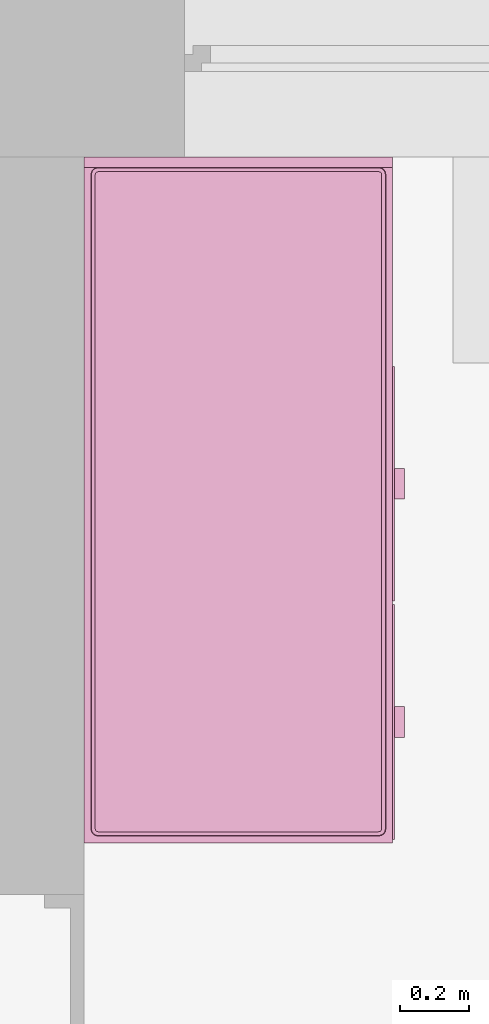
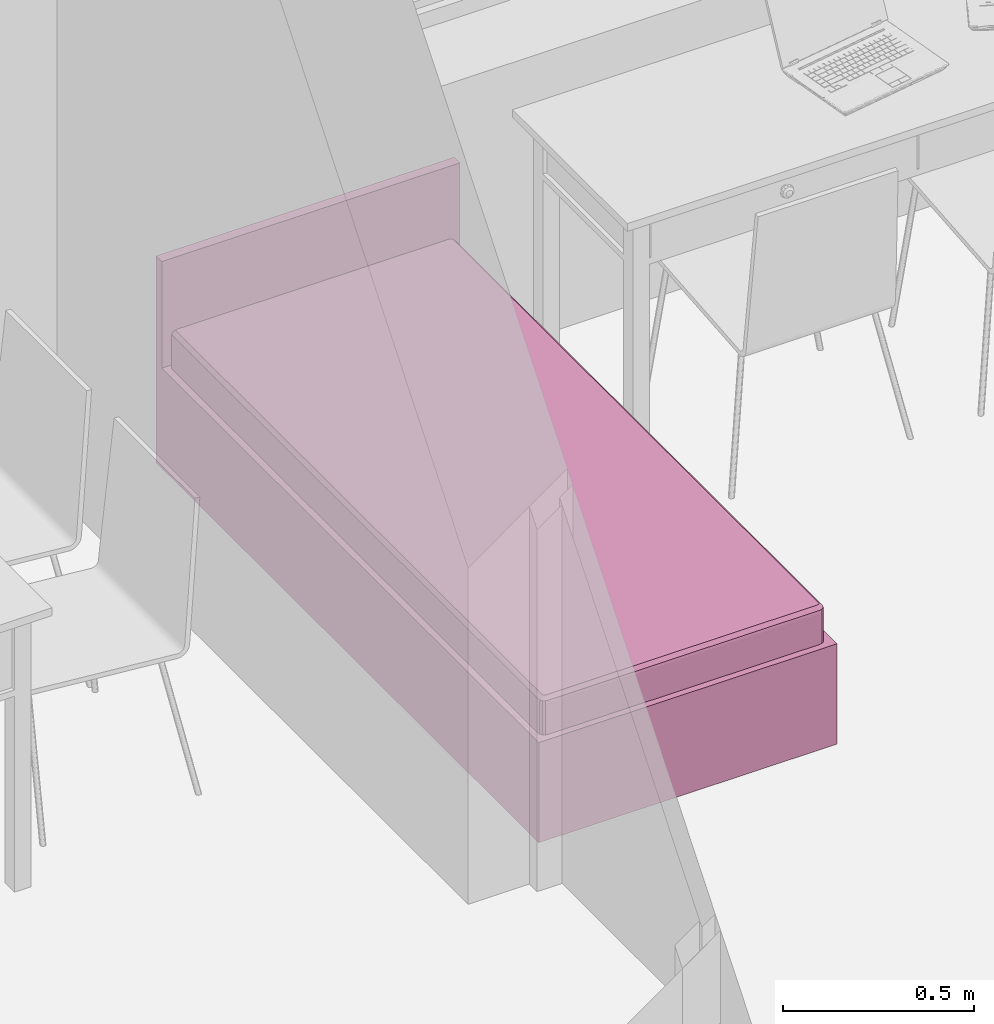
# One storey, part 67 of 165: 1 furnishing.
"""IFC2X3 building model written with IfcOpenShell, lengths in millimetres."""

from ifc_helpers import new_model, entity, si_unit, converted_unit, money_unit, direction, frame, origin_with_axes, place, context, subcontext, project, spatial, faceted_brep, source, transform, mapped, material, material_list, type_object, element, save


model = new_model("IFC2X3")

# Units and contexts
model_context = context("Model", 3, precision=1e-05, world=origin_with_axes(), true_north=direction((0.0, 1.0)))
body_context = subcontext(model_context, "Body", "Model", "MODEL_VIEW")
ifc_project = project(units=[si_unit("LENGTHUNIT", "METRE", prefix="MILLI"), si_unit("AREAUNIT", "SQUARE_METRE"), si_unit("VOLUMEUNIT", "CUBIC_METRE"), converted_unit("PLANEANGLEUNIT", "DEGREE", entity("IfcPlaneAngleMeasure", 0.0174532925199), si_unit("PLANEANGLEUNIT", "RADIAN"), dimensions=[0, 0, 0, 0, 0, 0, 0]), si_unit("SOLIDANGLEUNIT", "STERADIAN"), money_unit("USD"), converted_unit("TIMEUNIT", "Year", entity("IfcTimeMeasure", 31556926.0), si_unit("TIMEUNIT", "SECOND"), dimensions=[0, 0, 0, 0, 0, 0, 0]), si_unit("MASSUNIT", "GRAM"), si_unit("THERMODYNAMICTEMPERATUREUNIT", "DEGREE_CELSIUS"), si_unit("LUMINOUSINTENSITYUNIT", "LUMEN")], contexts=[model_context])

# Site, building, storey
site_placement = place(None, origin_with_axes())
site = spatial("IfcSite", under=ifc_project, at=site_placement, Name="Site", CompositionType="ELEMENT")
building_placement = place(site_placement, origin_with_axes())
building = spatial("IfcBuilding", under=site, at=building_placement, Name="Building", CompositionType="ELEMENT")
storey_placement = place(building_placement, frame((0.0, 0.0, 6300.0), z_axis=(0.0, 0.0, 1.0), x_axis=(1.0, 0.0, 0.0)))
storey = spatial("IfcBuildingStorey", under=building, at=storey_placement, Name="4KORRUS", CompositionType="ELEMENT", Elevation=6300.0)

# Furnishing
ifc_material = material(Name="Background")
ifc_material_list = material_list([ifc_material])
furnishing_element_type = type_object("IfcFurnishingElementType", Name="Bed 19")
shared_shape = source(origin_with_axes(), body_context, "Body", "Brep", [
    faceted_brep([(900.0, 1970.0, 0.0), (0.0, 1970.0, 0.0), (0.0, 2000.0, 0.0), (900.0, 2000.0, 0.0), (900.0, 1970.0, 660.0), (0.0, 1970.0, 660.0), (0.0, 2000.0, 660.0), (900.0, 2000.0, 660.0)], [[[0, 1, 2, 3]], [[1, 0, 4, 5]], [[2, 1, 5, 6]], [[3, 2, 6, 7]], [[0, 3, 7, 4]], [[5, 4, 7, 6]]]),
    faceted_brep([(900.0, 0.0, 0.0), (0.0, 0.0, 0.0), (0.0, 1970.0, 0.0), (900.0, 1970.0, 0.0), (900.0, 0.0, 320.0), (0.0, 0.0, 320.0), (0.0, 1970.0, 320.0), (900.0, 1970.0, 320.0)], [[[0, 1, 2, 3]], [[1, 0, 4, 5]], [[2, 1, 5, 6]], [[3, 2, 6, 7]], [[0, 3, 7, 4]], [[5, 4, 7, 6]]]),
    faceted_brep([(905.0, 10.0, 30.0), (900.0, 10.0, 30.0), (900.0, 695.0, 30.0), (905.0, 695.0, 30.0), (905.0, 10.0, 290.0), (900.0, 10.0, 290.0), (900.0, 695.0, 290.0), (905.0, 695.0, 290.0)], [[[0, 1, 2, 3]], [[1, 0, 4, 5]], [[2, 1, 5, 6]], [[3, 2, 6, 7]], [[0, 3, 7, 4]], [[5, 4, 7, 6]]]),
    faceted_brep([(935.0, 307.5, 150.0), (905.0, 307.5, 150.0), (905.0, 397.5, 150.0), (935.0, 397.5, 150.0), (935.0, 307.5, 170.0), (905.0, 307.5, 170.0), (905.0, 397.5, 170.0), (935.0, 397.5, 170.0)], [[[0, 1, 2, 3]], [[1, 0, 4, 5]], [[2, 1, 5, 6]], [[3, 2, 6, 7]], [[0, 3, 7, 4]], [[5, 4, 7, 6]]]),
    faceted_brep([(905.0, 705.0, 30.0), (900.0, 705.0, 30.0), (900.0, 1390.0, 30.0), (905.0, 1390.0, 30.0), (905.0, 705.0, 290.0), (900.0, 705.0, 290.0), (900.0, 1390.0, 290.0), (905.0, 1390.0, 290.0)], [[[0, 1, 2, 3]], [[1, 0, 4, 5]], [[2, 1, 5, 6]], [[3, 2, 6, 7]], [[0, 3, 7, 4]], [[5, 4, 7, 6]]]),
    faceted_brep([(935.0, 1002.5, 150.0), (905.0, 1002.5, 150.0), (905.0, 1092.5, 150.0), (935.0, 1092.5, 150.0), (935.0, 1002.5, 170.0), (905.0, 1002.5, 170.0), (905.0, 1092.5, 170.0), (935.0, 1092.5, 170.0)], [[[0, 1, 2, 3]], [[1, 0, 4, 5]], [[2, 1, 5, 6]], [[3, 2, 6, 7]], [[0, 3, 7, 4]], [[5, 4, 7, 6]]]),
    faceted_brep([(20.0, 40.0, 350.0), (20.0, 1950.0, 350.0), (21.522, 1957.654, 350.0), (25.858, 1964.142, 350.0), (32.346, 1968.478, 350.0), (40.0, 1970.0, 350.0), (860.0, 1970.0, 350.0), (867.654, 1968.478, 350.0), (874.142, 1964.142, 350.0), (878.478, 1957.654, 350.0), (880.0, 1950.0, 350.0), (880.0, 40.0, 350.0), (878.478, 32.346, 350.0), (874.142, 25.858, 350.0), (867.654, 21.522, 350.0), (860.0, 20.0, 350.0), (40.0, 20.0, 350.0), (32.346, 21.522, 350.0), (25.858, 25.858, 350.0), (21.522, 32.346, 350.0), (20.0, 40.0, 420.0), (20.0, 1950.0, 420.0), (21.522, 1957.654, 420.0), (25.858, 1964.142, 420.0), (32.346, 1968.478, 420.0), (40.0, 1970.0, 420.0), (860.0, 1970.0, 420.0), (867.654, 1968.478, 420.0), (874.142, 1964.142, 420.0), (878.478, 1957.654, 420.0), (880.0, 1950.0, 420.0), (880.0, 40.0, 420.0), (878.478, 32.346, 420.0), (874.142, 25.858, 420.0), (867.654, 21.522, 420.0), (860.0, 20.0, 420.0), (40.0, 20.0, 420.0), (32.346, 21.522, 420.0), (25.858, 25.858, 420.0), (21.522, 32.346, 420.0), (21.522, 40.15, 427.654), (21.522, 1949.85, 427.654), (22.956, 1957.06, 427.654), (26.955, 1963.045, 427.654), (32.94, 1967.044, 427.654), (40.15, 1968.478, 427.654), (859.85, 1968.478, 427.654), (867.06, 1967.044, 427.654), (873.045, 1963.045, 427.654), (877.044, 1957.06, 427.654), (878.478, 1949.85, 427.654), (878.478, 40.15, 427.654), (877.044, 32.94, 427.654), (873.045, 26.955, 427.654), (867.06, 22.956, 427.654), (859.85, 21.522, 427.654), (40.15, 21.522, 427.654), (32.94, 22.956, 427.654), (26.955, 26.955, 427.654), (22.956, 32.94, 427.654), (32.346, 41.216, 438.478), (32.346, 1948.784, 438.478), (33.152, 1952.836, 438.478), (34.759, 1955.241, 438.478), (37.164, 1956.848, 438.478), (41.216, 1957.654, 438.478), (858.784, 1957.654, 438.478), (862.836, 1956.848, 438.478), (865.241, 1955.241, 438.478), (866.848, 1952.836, 438.478), (867.654, 1948.784, 438.478), (867.654, 41.216, 438.478), (866.848, 37.164, 438.478), (865.241, 34.759, 438.478), (862.836, 33.152, 438.478), (858.784, 32.346, 438.478), (41.216, 32.346, 438.478), (37.164, 33.152, 438.478), (34.759, 34.759, 438.478), (33.152, 37.164, 438.478), (40.0, 41.97, 440.0), (40.0, 1948.03, 440.0), (40.327, 1949.673, 440.0), (40.0, 1950.0, 439.924), (41.97, 1950.0, 440.0), (858.03, 1950.0, 440.0), (859.673, 1949.673, 440.0), (860.0, 1950.0, 439.924), (860.0, 1948.03, 440.0), (860.0, 41.97, 440.0), (859.673, 40.327, 440.0), (860.0, 40.0, 439.924), (858.03, 40.0, 440.0), (41.97, 40.0, 440.0), (40.327, 40.327, 440.0), (40.0, 40.0, 439.924)], [[[0, 1, 2, 3, 4, 5, 6, 7, 8, 9, 10, 11, 12, 13, 14, 15, 16, 17, 18, 19]], [[1, 0, 20, 21]], [[2, 1, 21, 22]], [[3, 2, 22, 23]], [[4, 3, 23, 24]], [[5, 4, 24, 25]], [[6, 5, 25, 26]], [[7, 6, 26, 27]], [[8, 7, 27, 28]], [[9, 8, 28, 29]], [[10, 9, 29, 30]], [[11, 10, 30, 31]], [[12, 11, 31, 32]], [[13, 12, 32, 33]], [[14, 13, 33, 34]], [[15, 14, 34, 35]], [[16, 15, 35, 36]], [[17, 16, 36, 37]], [[18, 17, 37, 38]], [[19, 18, 38, 39]], [[0, 19, 39, 20]], [[21, 20, 40, 41]], [[22, 21, 41, 42]], [[23, 22, 42, 43]], [[24, 23, 43, 44]], [[25, 24, 44, 45]], [[26, 25, 45, 46]], [[27, 26, 46, 47]], [[28, 27, 47, 48]], [[29, 28, 48, 49]], [[30, 29, 49, 50]], [[31, 30, 50, 51]], [[32, 31, 51, 52]], [[33, 32, 52, 53]], [[34, 33, 53, 54]], [[35, 34, 54, 55]], [[36, 35, 55, 56]], [[37, 36, 56, 57]], [[38, 37, 57, 58]], [[39, 38, 58, 59]], [[20, 39, 59, 40]], [[41, 40, 60, 61]], [[42, 41, 61, 62]], [[43, 42, 62, 63]], [[44, 43, 63, 64]], [[45, 44, 64, 65]], [[46, 45, 65, 66]], [[47, 46, 66, 67]], [[48, 47, 67, 68]], [[49, 48, 68, 69]], [[50, 49, 69, 70]], [[51, 50, 70, 71]], [[52, 51, 71, 72]], [[53, 52, 72, 73]], [[54, 53, 73, 74]], [[55, 54, 74, 75]], [[56, 55, 75, 76]], [[57, 56, 76, 77]], [[58, 57, 77, 78]], [[59, 58, 78, 79]], [[40, 59, 79, 60]], [[61, 60, 80, 81]], [[62, 61, 81, 82, 83]], [[63, 62, 83]], [[64, 63, 83]], [[65, 64, 83, 82, 84]], [[66, 65, 84, 85]], [[67, 66, 85, 86, 87]], [[68, 67, 87]], [[69, 68, 87]], [[70, 69, 87, 86, 88]], [[71, 70, 88, 89]], [[72, 71, 89, 90, 91]], [[73, 72, 91]], [[74, 73, 91]], [[75, 74, 91, 90, 92]], [[76, 75, 92, 93]], [[77, 76, 93, 94, 95]], [[78, 77, 95]], [[79, 78, 95]], [[60, 79, 95, 94, 80]], [[81, 80, 94, 93, 92, 90, 89, 88, 86, 85, 84, 82]]]),
    faceted_brep([(20.0, 40.0, 350.0), (21.522, 32.346, 350.0), (25.858, 25.858, 350.0), (32.346, 21.522, 350.0), (40.0, 20.0, 350.0), (860.0, 20.0, 350.0), (867.654, 21.522, 350.0), (874.142, 25.858, 350.0), (878.478, 32.346, 350.0), (880.0, 40.0, 350.0), (880.0, 1950.0, 350.0), (878.478, 1957.654, 350.0), (874.142, 1964.142, 350.0), (867.654, 1968.478, 350.0), (860.0, 1970.0, 350.0), (40.0, 1970.0, 350.0), (32.346, 1968.478, 350.0), (25.858, 1964.142, 350.0), (21.522, 1957.654, 350.0), (20.0, 1950.0, 350.0), (20.0, 40.0, 320.0), (21.522, 32.346, 320.0), (25.858, 25.858, 320.0), (32.346, 21.522, 320.0), (40.0, 20.0, 320.0), (860.0, 20.0, 320.0), (867.654, 21.522, 320.0), (874.142, 25.858, 320.0), (878.478, 32.346, 320.0), (880.0, 40.0, 320.0), (880.0, 1950.0, 320.0), (878.478, 1957.654, 320.0), (874.142, 1964.142, 320.0), (867.654, 1968.478, 320.0), (860.0, 1970.0, 320.0), (40.0, 1970.0, 320.0), (32.346, 1968.478, 320.0), (25.858, 1964.142, 320.0), (21.522, 1957.654, 320.0), (20.0, 1950.0, 320.0)], [[[0, 1, 2, 3, 4, 5, 6, 7, 8, 9, 10, 11, 12, 13, 14, 15, 16, 17, 18, 19]], [[0, 20, 21, 1]], [[1, 21, 22, 2]], [[2, 22, 23, 3]], [[3, 23, 24, 4]], [[4, 24, 25, 5]], [[5, 25, 26, 6]], [[6, 26, 27, 7]], [[7, 27, 28, 8]], [[8, 28, 29, 9]], [[9, 29, 30, 10]], [[10, 30, 31, 11]], [[11, 31, 32, 12]], [[12, 32, 33, 13]], [[13, 33, 34, 14]], [[14, 34, 35, 15]], [[15, 35, 36, 16]], [[16, 36, 37, 17]], [[17, 37, 38, 18]], [[18, 38, 39, 19]], [[19, 39, 20, 0]], [[20, 39, 38, 37, 36, 35, 34, 33, 32, 31, 30, 29, 28, 27, 26, 25, 24, 23, 22, 21]]]),
])
furnishing_placement = place(storey_placement, frame((-47990.2967033, -7139.6041088, 0.0), z_axis=(0.0, 0.0, 1.0), x_axis=(1.0, 0.0, 0.0)))
element("IfcFurnishingElement", 1, at=furnishing_placement, inside=storey, type_object=furnishing_element_type, material=ifc_material_list, Name="FU - 013", context=body_context, shape_type="MappedRepresentation", body=[
    mapped(shared_shape, transform((0.0, 0.0, 0.0))),
])

save(model, "model.ifc")
